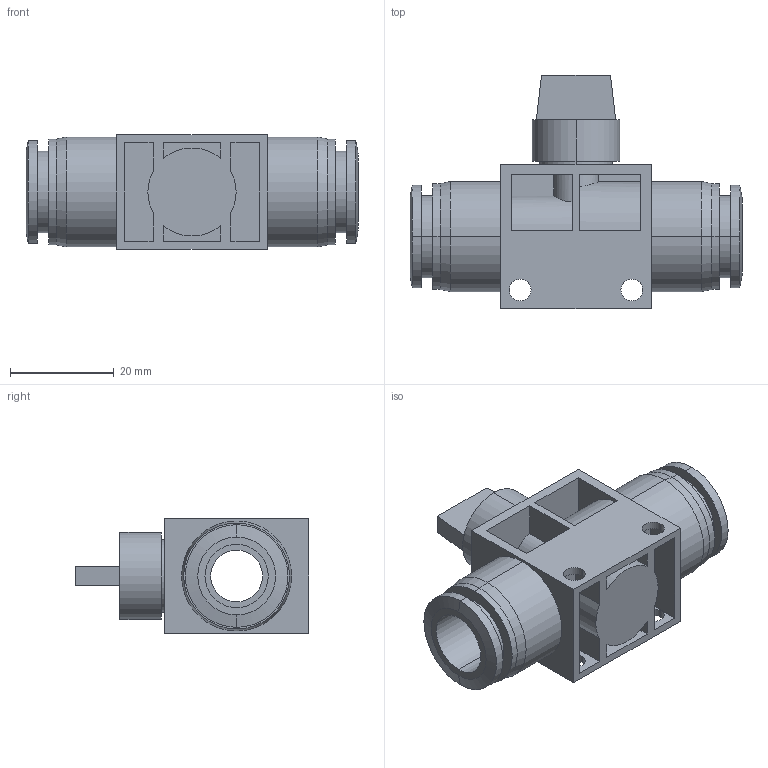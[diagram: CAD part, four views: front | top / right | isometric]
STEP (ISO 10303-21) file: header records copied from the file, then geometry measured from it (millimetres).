
FILE_DESCRIPTION (( 'STEP AP214' ), '1' );
FILE_NAME ('EHVFF12-12.STEP', '2025-11-13T00:52:24', ( 'E.mc' ), ( 'E.mc' ), 'SwSTEP 2.0', 'SolidWorks 2020', '' );
FILE_SCHEMA (( 'AUTOMOTIVE_DESIGN' ));
Length unit declared in the file: millimetre
Products named in the file (1): EHVFF12-12
Bounding box: 64 x 45 x 22 mm (x, y, z)
Volume: 20364.6 mm3; surface area: 11851.5 mm2
Topology: 1 solids, 1 shells, 118 faces, 279 edges, 182 vertices
Faces by surface type: plane 63, cylinder 47, cone 8
Entity records: 3495 total; most frequent: CARTESIAN_POINT 626, DIRECTION 609, ORIENTED_EDGE 558, EDGE_CURVE 279, AXIS2_PLACEMENT_3D 215, VERTEX_POINT 182, LINE 179, VECTOR 179
